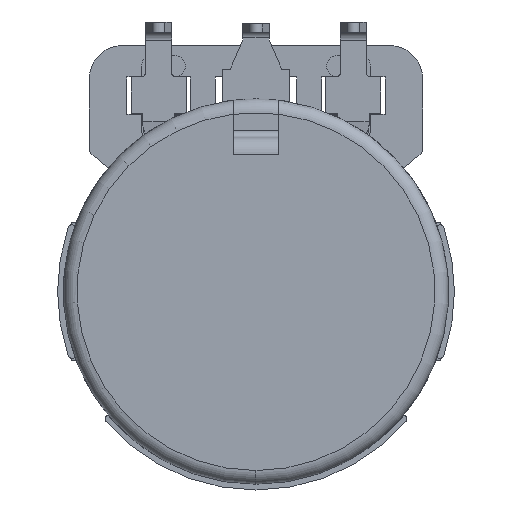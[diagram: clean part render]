
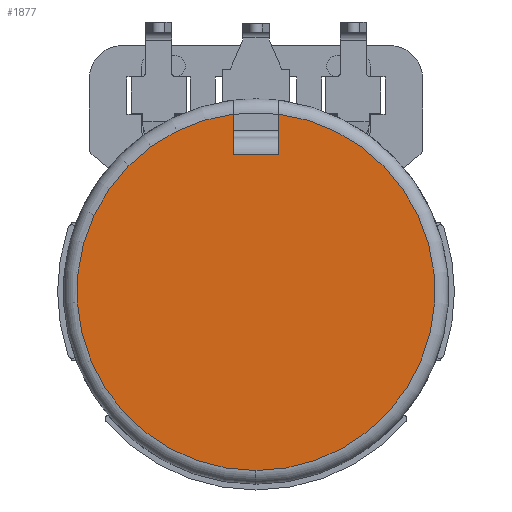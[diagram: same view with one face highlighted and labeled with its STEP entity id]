
A CAD part, front view. The second image highlights one B-rep face of the part: STEP entity #1877.
In plain terms, the highlighted planar face has unit normal (0, -1, 0).
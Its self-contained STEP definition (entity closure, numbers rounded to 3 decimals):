
#810 = FACE_OUTER_BOUND ( 'NONE', #17175, .T. ) ;
#1877 = ADVANCED_FACE ( 'NONE', ( #810 ), #3874, .T. ) ;
#3007 = LINE ( 'NONE', #14030, #6754 ) ;
#3573 = VECTOR ( 'NONE', #11098, 1000. ) ;
#3723 = DIRECTION ( 'NONE',  ( 0., -1., 0. ) ) ;
#3783 = AXIS2_PLACEMENT_3D ( 'NONE', #7329, #19907, #10495 ) ;
#3874 = PLANE ( 'NONE',  #19735 ) ;
#3886 = LINE ( 'NONE', #11532, #13798 ) ;
#3924 = EDGE_CURVE ( 'NONE', #10328, #7448, #15875, .T. ) ;
#4787 = CARTESIAN_POINT ( 'NONE',  ( 1.397, 0., 8.382 ) ) ;
#6754 = VECTOR ( 'NONE', #7475, 1000. ) ;
#7039 = DIRECTION ( 'NONE',  ( -1., 0., 0. ) ) ;
#7128 = CARTESIAN_POINT ( 'NONE',  ( -1.397, 0., 8.382 ) ) ;
#7329 = CARTESIAN_POINT ( 'NONE',  ( 0., 0., 0. ) ) ;
#7448 = VERTEX_POINT ( 'NONE', #14954 ) ;
#7475 = DIRECTION ( 'NONE',  ( 0., 0., -1. ) ) ;
#7795 = ORIENTED_EDGE ( 'NONE', *, *, #19745, .F. ) ;
#8799 = ORIENTED_EDGE ( 'NONE', *, *, #3924, .T. ) ;
#9567 = LINE ( 'NONE', #9770, #3573 ) ;
#9732 = EDGE_CURVE ( 'NONE', #19801, #19556, #3886, .T. ) ;
#9749 = ORIENTED_EDGE ( 'NONE', *, *, #14179, .T. ) ;
#9770 = CARTESIAN_POINT ( 'NONE',  ( 1.397, 0., 12.522 ) ) ;
#9976 = CIRCLE ( 'NONE', #3783, 10.973 ) ;
#10306 = AXIS2_PLACEMENT_3D ( 'NONE', #17631, #3723, #16298 ) ;
#10328 = VERTEX_POINT ( 'NONE', #17129 ) ;
#10495 = DIRECTION ( 'NONE',  ( 0., 0., -1. ) ) ;
#11098 = DIRECTION ( 'NONE',  ( 0., 0., 1. ) ) ;
#11519 = DIRECTION ( 'NONE',  ( 0., 0., -1. ) ) ;
#11532 = CARTESIAN_POINT ( 'NONE',  ( -1.397, 0., 8.382 ) ) ;
#11670 = VERTEX_POINT ( 'NONE', #16612 ) ;
#13798 = VECTOR ( 'NONE', #7039, 1000. ) ;
#14030 = CARTESIAN_POINT ( 'NONE',  ( -1.397, 0., 12.522 ) ) ;
#14179 = EDGE_CURVE ( 'NONE', #7448, #11670, #9976, .T. ) ;
#14954 = CARTESIAN_POINT ( 'NONE',  ( 0., 0., -10.973 ) ) ;
#15202 = ORIENTED_EDGE ( 'NONE', *, *, #16665, .F. ) ;
#15875 = CIRCLE ( 'NONE', #10306, 10.973 ) ;
#16141 = DIRECTION ( 'NONE',  ( 0., -1., 0. ) ) ;
#16242 = CARTESIAN_POINT ( 'NONE',  ( -5.207, 0., 0. ) ) ;
#16298 = DIRECTION ( 'NONE',  ( 0., 0., -1. ) ) ;
#16612 = CARTESIAN_POINT ( 'NONE',  ( 1.397, 0., 10.884 ) ) ;
#16665 = EDGE_CURVE ( 'NONE', #10328, #19556, #3007, .T. ) ;
#17129 = CARTESIAN_POINT ( 'NONE',  ( -1.397, 0., 10.884 ) ) ;
#17175 = EDGE_LOOP ( 'NONE', ( #7795, #18082, #15202, #8799, #9749 ) ) ;
#17631 = CARTESIAN_POINT ( 'NONE',  ( 0., 0., 0. ) ) ;
#18082 = ORIENTED_EDGE ( 'NONE', *, *, #9732, .T. ) ;
#19556 = VERTEX_POINT ( 'NONE', #7128 ) ;
#19735 = AXIS2_PLACEMENT_3D ( 'NONE', #16242, #16141, #11519 ) ;
#19745 = EDGE_CURVE ( 'NONE', #19801, #11670, #9567, .T. ) ;
#19801 = VERTEX_POINT ( 'NONE', #4787 ) ;
#19907 = DIRECTION ( 'NONE',  ( 0., -1., 0. ) ) ;
